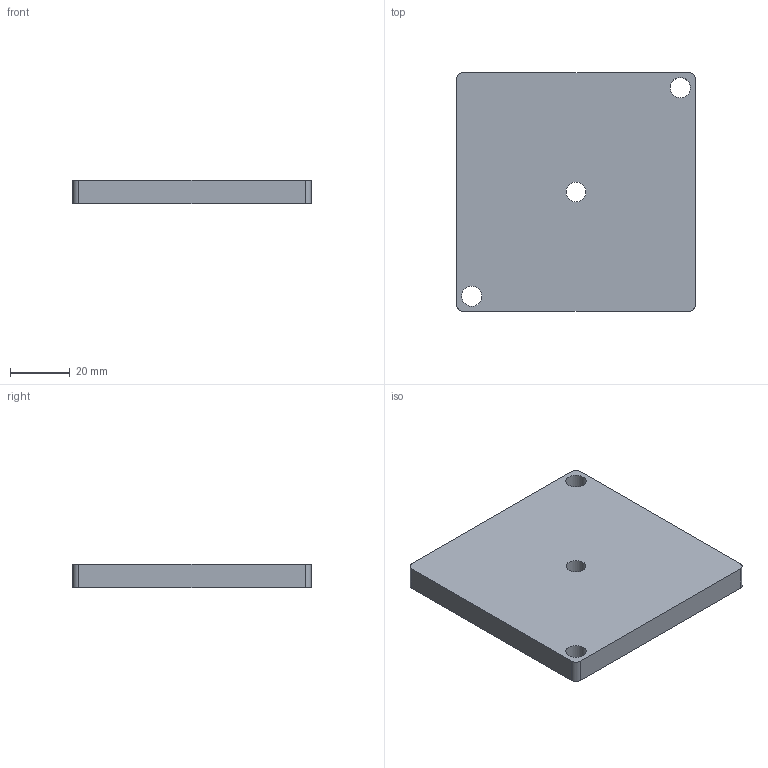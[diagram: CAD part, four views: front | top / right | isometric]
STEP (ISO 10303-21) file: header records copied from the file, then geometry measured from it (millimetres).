
FILE_DESCRIPTION(/* description */ ('ENDPLATE FOR FOOT M8, PROFILE 80x80'),/* implementation_level */ '2;1');
FILE_NAME(/* name */ '\\carryline.intra\privat\users\mathias\Desktop\Tillfälliga filer\100-1171.stp',/* time_stamp */ '2018-11-19T11:12:43+01:00',/* author */ ('ML'),/* organization */ ('CARRYLINE'),/* preprocessor_version */ 'ST-DEVELOPER v17',/* originating_system */ 'Autodesk Inventor 2018',/* authorisation */ '');
FILE_SCHEMA (('AUTOMOTIVE_DESIGN { 1 0 10303 214 3 1 1 }'));
Length unit declared in the file: millimetre
Products named in the file (1): 100-1171
Bounding box: 80 x 80 x 8 mm (x, y, z)
Volume: 50313.9 mm3; surface area: 15619.9 mm2
Topology: 1 solids, 1 shells, 13 faces, 36 edges, 25 vertices
Faces by surface type: cylinder 7, plane 6
Full cylindrical faces by diameter (mm): 6.647 x1, 6.8 x2
Entity records: 482 total; most frequent: DIRECTION 81, CARTESIAN_POINT 75, ORIENTED_EDGE 72, EDGE_CURVE 36, AXIS2_PLACEMENT_3D 31, VERTEX_POINT 25, EDGE_LOOP 19, LINE 19
